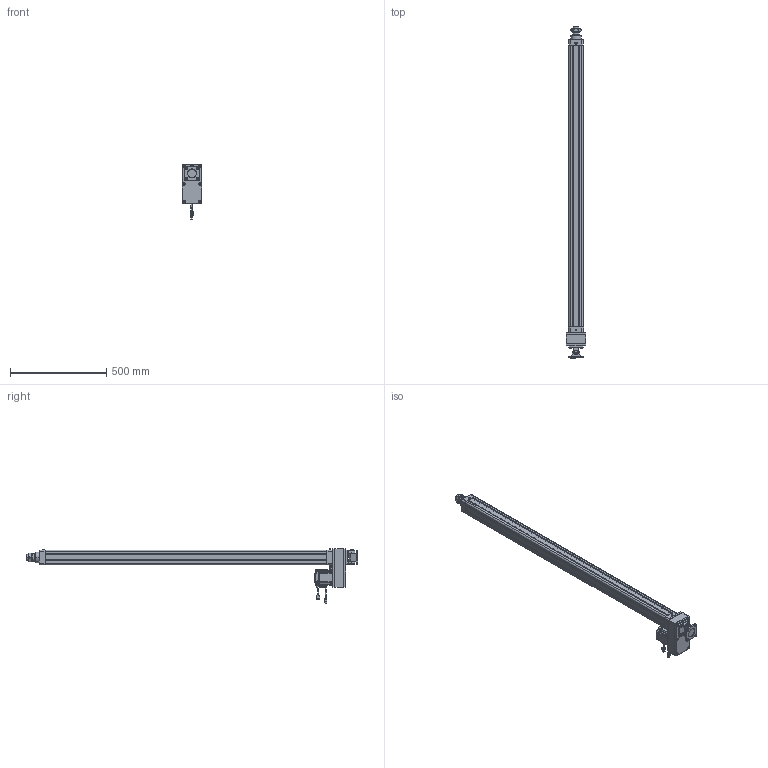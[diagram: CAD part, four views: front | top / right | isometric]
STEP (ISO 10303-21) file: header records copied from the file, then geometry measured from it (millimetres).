
FILE_DESCRIPTION((''),'2;1');
FILE_NAME('HE63-D-100-X1_ASM','2020-05-19T',('ASUS20200'),(''),'CREO PARAMETRIC BY PTC INC, 2014190','CREO PARAMETRIC BY PTC INC, 2014190','');
FILE_SCHEMA(('CONFIG_CONTROL_DESIGN'));
Length unit declared in the file: millimetre
Products named in the file (33): HE63-D-P-001-X1; HE63-D-P-002-X1; HE63-D-P-003-X1; 30302J; LGLM-M8-22; SLM-01; YZ-M6X1; JDB405030; HE63-P-010-X1-80N; _MHMF082L1A2; _CABLE_MOTOR_BOTTOM_05; _CABLE_MOTOR_TOP_05; _MOTOR_CONNECTOR_2; _CABLE_BRAKE_BOTTOM_05; _CABLE_BRAKE_TOP_05; _MHMF_CONNECTOR_9_PIN_A6; MHMF082L1A2M2_1_ASM; JX6X6X25; HE63-P-012-X1; HE63-P-013-X1; M6X60; JM-M8; LM-M8-15; LM-M8X1-25; F-SE63CB; F-SE63CB-XD; F-SE63CB_ASM; F-SE63CA; M8X20; HE63-D-P-005-X1; HE63-D-P-004-X1; HE63-D-P-008-X1; HE63-D-100-X1_ASM
Assembly tree (47 placements, depth 3):
  HE63-D-100-X1_ASM
    HE63-D-P-001-X1
    HE63-D-P-002-X1
    HE63-D-P-003-X1
    30302J
    LGLM-M8-22  x8
    SLM-01
    YZ-M6X1
    JDB405030
    HE63-P-010-X1-80N
    MHMF082L1A2M2_1_ASM
      _MHMF082L1A2
      _CABLE_MOTOR_BOTTOM_05
      _CABLE_MOTOR_TOP_05
      _MOTOR_CONNECTOR_2
      _CABLE_BRAKE_BOTTOM_05
      _CABLE_BRAKE_TOP_05
      _MHMF_CONNECTOR_9_PIN_A6
    JX6X6X25
    HE63-P-012-X1
    HE63-P-013-X1
    M6X60  x6
    JM-M8
    LM-M8-15
    LM-M8X1-25
    F-SE63CB_ASM
      F-SE63CB
      F-SE63CB-XD
    F-SE63CA
    M8X20  x4
    HE63-D-P-005-X1
    HE63-D-P-004-X1
    HE63-D-P-008-X1
Bounding box: 100 x 1721 x 284.15 mm (x, y, z)
Volume: 4696624.2 mm3; surface area: 1440541.4 mm2
Topology: 45 solids, 78 shells, 2781 faces, 6679 edges, 4149 vertices
Faces by surface type: plane 1159, cylinder 814, cone 633, torus 130, sphere 42, bspline 3
Entity records: 70935 total; most frequent: CARTESIAN_POINT 13193, DIRECTION 12745, ORIENTED_EDGE 11260, EDGE_CURVE 5685, AXIS2_PLACEMENT_3D 4794, VERTEX_POINT 3556, VECTOR 3157, LINE 3157
